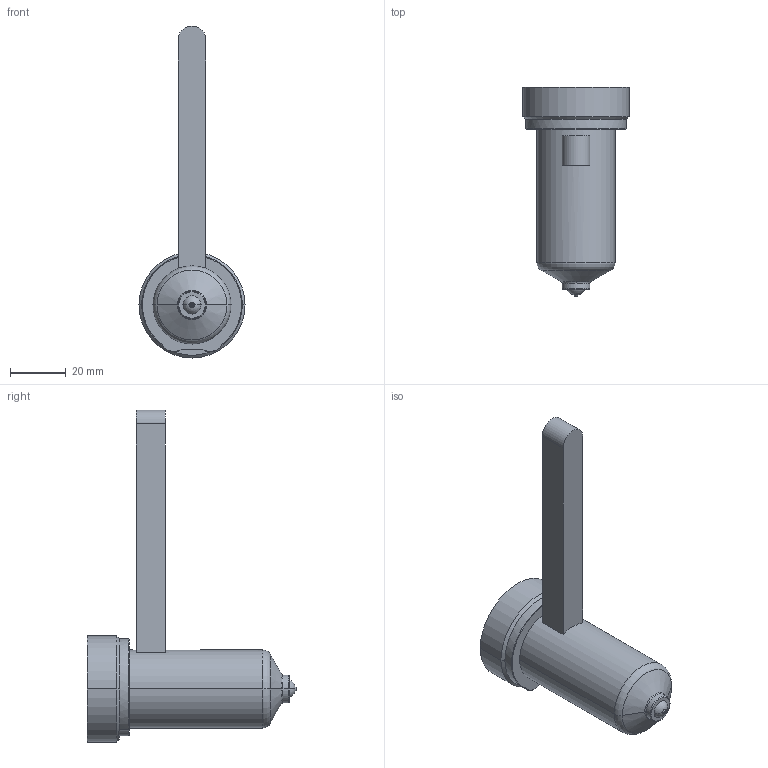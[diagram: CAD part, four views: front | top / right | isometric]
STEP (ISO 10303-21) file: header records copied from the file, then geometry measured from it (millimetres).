
FILE_DESCRIPTION((''),'2;1');
FILE_NAME('EO06_PG-BL_STD_060_COT','2024-02-19T11:00:37',('sundharh'),(''),'CREO PARAMETRIC BY PTC INC, 2023154','CREO PARAMETRIC BY PTC INC, 2023154','');
FILE_SCHEMA(('CONFIG_CONTROL_DESIGN'));
Length unit declared in the file: millimetre
Products named in the file (1): EO06_PG-BL_STD_060_COT
Bounding box: 38 x 75 x 119 mm (x, y, z)
Volume: 57785.9 mm3; surface area: 11950 mm2
Topology: 1 solids, 1 shells, 40 faces, 85 edges, 50 vertices
Faces by surface type: cylinder 13, plane 10, torus 9, cone 6, sphere 2
Entity records: 1197 total; most frequent: CARTESIAN_POINT 267, DIRECTION 209, ORIENTED_EDGE 170, AXIS2_PLACEMENT_3D 90, EDGE_CURVE 85, VERTEX_POINT 50, CIRCLE 50, EDGE_LOOP 43
